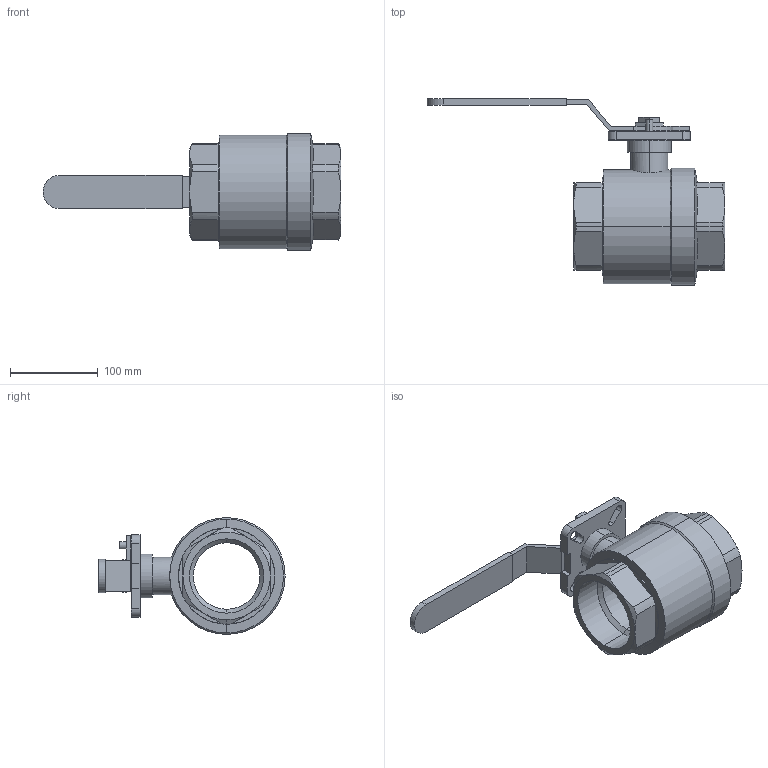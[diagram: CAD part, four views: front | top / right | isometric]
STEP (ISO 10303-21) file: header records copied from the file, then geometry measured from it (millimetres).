
FILE_DESCRIPTION (( 'STEP AP203' ), '1' );
FILE_NAME ('B3.622I080IFVPB0.STEP', '2018-10-02T07:32:47', ( '' ), ( '' ), 'SwSTEP 2.0', 'SolidWorks 2014', '' );
FILE_SCHEMA (( 'CONFIG_CONTROL_DESIGN' ));
Length unit declared in the file: millimetre
Products named in the file (1): B3.622I080IFVPB0
Bounding box: 340.5 x 212.75 x 133.5 mm (x, y, z)
Volume: 1348935 mm3; surface area: 176671.3 mm2
Topology: 1 solids, 1 shells, 149 faces, 382 edges, 243 vertices
Faces by surface type: plane 82, cylinder 43, cone 24
Entity records: 4856 total; most frequent: CARTESIAN_POINT 1107, DIRECTION 765, ORIENTED_EDGE 764, EDGE_CURVE 382, AXIS2_PLACEMENT_3D 265, VERTEX_POINT 243, VECTOR 235, LINE 235
